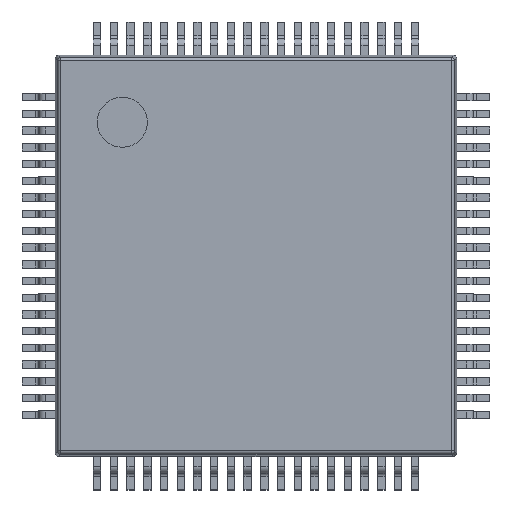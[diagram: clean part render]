
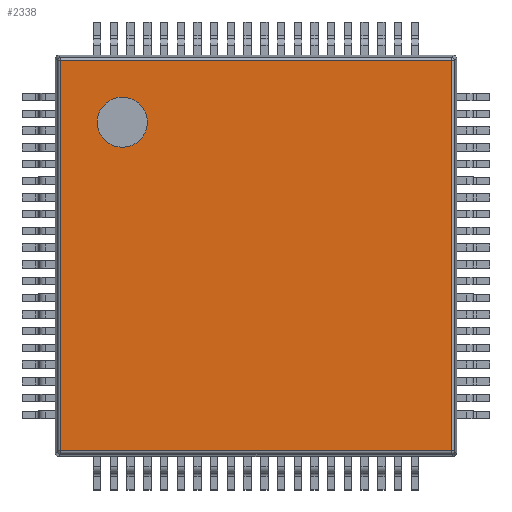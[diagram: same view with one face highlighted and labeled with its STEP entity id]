
A CAD part, top view. The second image highlights one B-rep face of the part: STEP entity #2338.
In plain terms, the highlighted planar face has unit normal (0, 0, 1).
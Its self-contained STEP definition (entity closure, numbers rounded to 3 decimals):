
#1993 = VERTEX_POINT('',#1994);
#1994 = CARTESIAN_POINT('',(0.166,0.166,1.6));
#2001 = EDGE_CURVE('',#1993,#2002,#2004,.T.);
#2002 = VERTEX_POINT('',#2003);
#2003 = CARTESIAN_POINT('',(0.166,11.834,1.6));
#2004 = LINE('',#2005,#2006);
#2005 = CARTESIAN_POINT('',(0.166,0.076,1.6));
#2006 = VECTOR('',#2007,1.);
#2007 = DIRECTION('',(0.,1.,-0.));
#2338 = ADVANCED_FACE('',(#2339,#2364),#2375,.T.);
#2339 = FACE_BOUND('',#2340,.T.);
#2340 = EDGE_LOOP('',(#2341,#2342,#2350,#2358));
#2341 = ORIENTED_EDGE('',*,*,#2001,.F.);
#2342 = ORIENTED_EDGE('',*,*,#2343,.T.);
#2343 = EDGE_CURVE('',#1993,#2344,#2346,.T.);
#2344 = VERTEX_POINT('',#2345);
#2345 = CARTESIAN_POINT('',(11.834,0.166,1.6));
#2346 = LINE('',#2347,#2348);
#2347 = CARTESIAN_POINT('',(0.076,0.166,1.6));
#2348 = VECTOR('',#2349,1.);
#2349 = DIRECTION('',(1.,-0.,0.));
#2350 = ORIENTED_EDGE('',*,*,#2351,.T.);
#2351 = EDGE_CURVE('',#2344,#2352,#2354,.T.);
#2352 = VERTEX_POINT('',#2353);
#2353 = CARTESIAN_POINT('',(11.834,11.834,1.6));
#2354 = LINE('',#2355,#2356);
#2355 = CARTESIAN_POINT('',(11.834,0.076,1.6));
#2356 = VECTOR('',#2357,1.);
#2357 = DIRECTION('',(0.,1.,-0.));
#2358 = ORIENTED_EDGE('',*,*,#2359,.F.);
#2359 = EDGE_CURVE('',#2002,#2352,#2360,.T.);
#2360 = LINE('',#2361,#2362);
#2361 = CARTESIAN_POINT('',(0.076,11.834,1.6));
#2362 = VECTOR('',#2363,1.);
#2363 = DIRECTION('',(1.,0.,0.));
#2364 = FACE_BOUND('',#2365,.T.);
#2365 = EDGE_LOOP('',(#2366));
#2366 = ORIENTED_EDGE('',*,*,#2367,.F.);
#2367 = EDGE_CURVE('',#2368,#2368,#2370,.T.);
#2368 = VERTEX_POINT('',#2369);
#2369 = CARTESIAN_POINT('',(2.75,10.,1.6));
#2370 = CIRCLE('',#2371,0.75);
#2371 = AXIS2_PLACEMENT_3D('',#2372,#2373,#2374);
#2372 = CARTESIAN_POINT('',(2.,10.,1.6));
#2373 = DIRECTION('',(0.,0.,1.));
#2374 = DIRECTION('',(1.,0.,-0.));
#2375 = PLANE('',#2376);
#2376 = AXIS2_PLACEMENT_3D('',#2377,#2378,#2379);
#2377 = CARTESIAN_POINT('',(0.,0.,1.6));
#2378 = DIRECTION('',(0.,0.,1.));
#2379 = DIRECTION('',(1.,0.,-0.));
